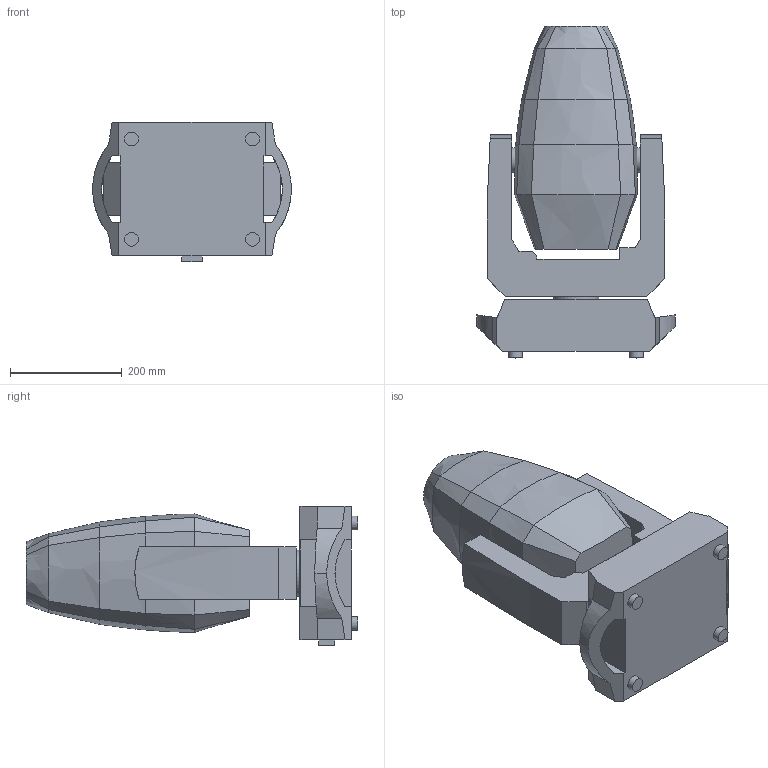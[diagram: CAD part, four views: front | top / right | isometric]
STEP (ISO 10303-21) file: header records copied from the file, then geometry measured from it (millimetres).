
FILE_DESCRIPTION(/* description */ (''),/* implementation_level */ '2;1');
FILE_NAME(/* name */ 'Rogue R3E Spot_0.stp',/* time_stamp */ '2024-04-09T17:04:12-04:00',/* author */ ('dgooch'),/* organization */ (''),/* preprocessor_version */ 'ST-DEVELOPER v20',/* originating_system */ 'Autodesk Inventor 2024',/* authorisation */ '');
FILE_SCHEMA (('AUTOMOTIVE_DESIGN { 1 0 10303 214 3 1 1 }'));
Length unit declared in the file: millimetre
Products named in the file (4): Rogue R3E Spot_0; Base (1); Arm (1); Head (1)
Assembly tree (3 placements, depth 2):
  Rogue R3E Spot_0
    Base (1)
    Arm (1)
    Head (1)
Bounding box: 356 x 595 x 249.39 mm (x, y, z)
Volume: 22567442 mm3; surface area: 808481.1 mm2
Topology: 3 solids, 3 shells, 118 faces, 282 edges, 178 vertices
Faces by surface type: plane 55, bspline 40, cylinder 22, cone 1
Full cylindrical faces by diameter (mm): 25 x4, 44 x4, 82 x2
Entity records: 4274 total; most frequent: CARTESIAN_POINT 1468, ORIENTED_EDGE 564, DIRECTION 494, EDGE_CURVE 282, LINE 206, VECTOR 206, VERTEX_POINT 178, AXIS2_PLACEMENT_3D 144
